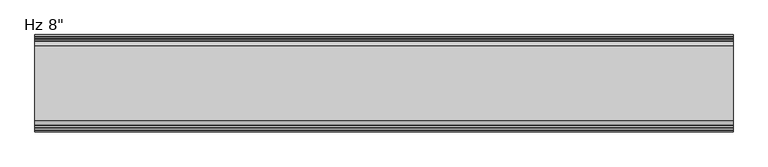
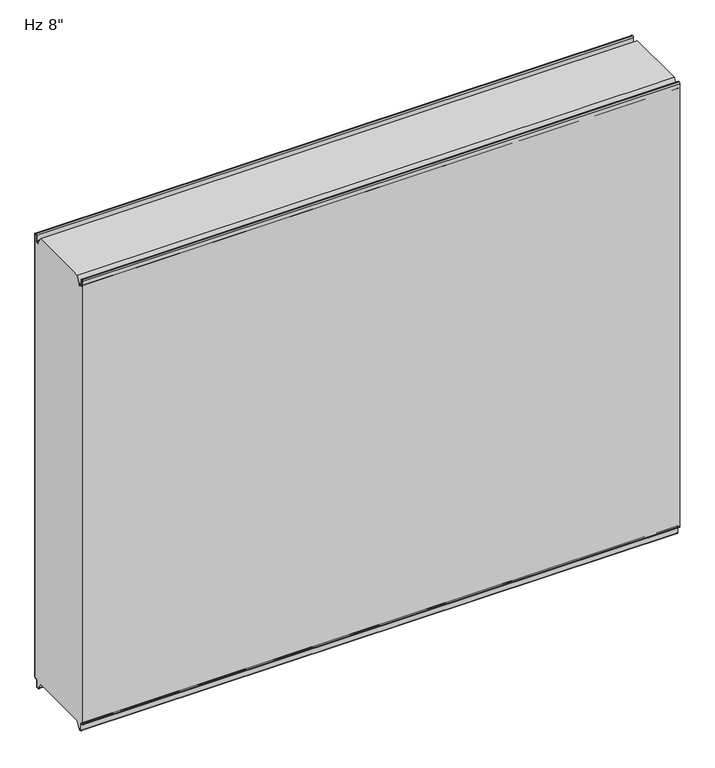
"""IFC4 building model written with IfcOpenShell, lengths in millimetres: plate geometry."""

from ifc_helpers import new_model, si_unit, frame, origin, place, context, project, spatial, polyline, circle_curve, source, transform, mapped, element, save
from ifc_brep_helpers import plane_surface, cylinder_surface, revolved_surface, advanced_brep


def plate_5a65601d(model_context):
    return source(origin(), model_context, "Body", "AdvancedBrep", [
        advanced_brep(
        [(-730.0, -200.2227194, 3.8499499), (-730.0, -202.1999935, 5.8272239), (-730.0, -202.2, 1150.8100652), (-730.0, -200.2227315, 1152.7873337), (-730.0, -199.1806329, 1152.7873337), (-730.0, -197.2033643, 1150.8100652), (-730.0, -197.2033643, 1136.6216802), (-730.0, -194.6154878, 1134.0338036), (-730.0, -190.2950697, 1134.0338036), (-730.0, -189.7060762, 1133.4253365), (-730.0, -189.7060762, 1131.0482432), (-730.0, -188.7066023, 1131.0482432), (-730.0, -188.7066023, 1136.4905123), (-730.0, -179.4490865, 1152.525), (-730.0, -23.7509179, 1152.525), (-730.0, -14.4933977, 1136.4905123), (-730.0, -14.4933977, 1131.0482432), (-730.0, -13.4939238, 1131.0482432), (-730.0, -13.4939238, 1133.4253365), (-730.0, -12.9049303, 1134.0338036), (-730.0, -8.5845122, 1134.0338036), (-730.0, -5.9966357, 1136.6216802), (-730.0, -5.9966357, 1150.8100652), (-730.0, -4.0193671, 1152.7873337), (-730.0, -2.9772685, 1152.7873337), (-730.0, -1.0, 1150.8100652), (-730.0, -1.0, 5.8272239), (-730.0, -2.9772806, 3.8499499), (-730.0, -5.2691705, 3.8499499), (-730.0, -9.2464377, -0.1273173), (-730.0, -9.2464377, -15.7237417), (-730.0, -9.8343146, -16.3116186), (-730.0, -12.9058635, -16.3116186), (-730.0, -13.4937402, -15.723742), (-730.0, -13.4937402, -13.3687064), (-730.0, -14.4937402, -13.3687064), (-730.0, -14.4937402, -15.6582851), (-730.0, -23.7509135, 0.0), (-730.0, -179.4490865, 0.0), (-730.0, -188.7062598, -15.6582851), (-730.0, -188.7062598, -13.3687064), (-730.0, -189.7062598, -13.3687064), (-730.0, -189.7062598, -15.723742), (-730.0, -190.2941365, -16.3116186), (-730.0, -193.3656854, -16.3116186), (-730.0, -193.9535623, -15.7237417), (-730.0, -193.9535623, -0.1273173), (-730.0, -197.9308295, 3.8499499), (730.0, -200.2227194, 3.8499499), (730.0, -197.9308295, 3.8499499), (730.0, -193.9535623, -0.1273173), (730.0, -193.9535623, -15.7237417), (730.0, -193.3656854, -16.3116186), (730.0, -190.2941365, -16.3116186), (730.0, -189.7062598, -15.723742), (730.0, -189.7062598, -13.3687064), (730.0, -188.7062598, -13.3687064), (730.0, -188.7062598, -15.6582851), (730.0, -179.4490865, 0.0), (730.0, -23.7509179, 0.0), (730.0, -14.4937402, -15.6582851), (730.0, -14.4937402, -13.3687064), (730.0, -13.4937402, -13.3687064), (730.0, -13.4937402, -15.723742), (730.0, -12.9058635, -16.3116186), (730.0, -9.8343146, -16.3116186), (730.0, -9.2464377, -15.7237417), (730.0, -9.2464377, -0.1273173), (730.0, -5.2691705, 3.8499499), (730.0, -2.9772806, 3.8499499), (730.0, -1.0000065, 5.8272239), (730.0, -1.0, 1150.8100652), (730.0, -2.9772685, 1152.7873337), (730.0, -4.0193671, 1152.7873337), (730.0, -5.9966357, 1150.8100652), (730.0, -5.9966357, 1136.6216802), (730.0, -8.5845122, 1134.0338036), (730.0, -12.9049303, 1134.0338036), (730.0, -13.4939238, 1133.4253365), (730.0, -13.4939238, 1131.0482432), (730.0, -14.4933977, 1131.0482432), (730.0, -14.4933977, 1136.4905123), (730.0, -23.7509135, 1152.525), (730.0, -179.4490865, 1152.525), (730.0, -188.7066023, 1136.4905123), (730.0, -188.7066023, 1131.0482432), (730.0, -189.7060762, 1131.0482432), (730.0, -189.7060762, 1133.4253365), (730.0, -190.2950697, 1134.0338036), (730.0, -194.6154878, 1134.0338036), (730.0, -197.2033643, 1136.6216802), (730.0, -197.2033643, 1150.8100652), (730.0, -199.1806329, 1152.7873337), (730.0, -200.2227315, 1152.7873337), (730.0, -202.2, 1150.8100652), (730.0, -202.2, 5.8272239)],
        [
            (0, 1, circle_curve(frame((-730.0, -200.2227194, 5.8272239), z_axis=(-1.0, 0.0, 0.0), x_axis=(0.0, 0.0, -1.0)), 1.977274)),
            (1, 2),
            (2, 3, circle_curve(frame((-730.0, -200.2227315, 1150.8100652), z_axis=(-1.0, 0.0, 0.0), x_axis=(0.0, 0.0, -1.0)), 1.9772685)),
            (3, 4),
            (4, 5, circle_curve(frame((-730.0, -199.1806329, 1150.8100652), z_axis=(-1.0, 0.0, 0.0), x_axis=(0.0, 0.0, -1.0)), 1.9772685)),
            (5, 6),
            (6, 7, circle_curve(frame((-730.0, -194.6154878, 1136.6216802), z_axis=(1.0, 0.0, 0.0), x_axis=(0.0, 0.0, -1.0)), 2.5878765)),
            (7, 8),
            (8, 9, circle_curve(frame((-730.0, -190.2950697, 1133.4444985), z_axis=(-1.0, 0.0, 0.0), x_axis=(0.0, 0.0, -1.0)), 0.5893051)),
            (9, 10),
            (10, 11),
            (11, 12),
            (12, 13),
            (13, 14),
            (14, 15),
            (15, 16),
            (16, 17),
            (17, 18),
            (18, 19, circle_curve(frame((-730.0, -12.9049303, 1133.4444985), z_axis=(-1.0, 0.0, 0.0), x_axis=(0.0, 1.0, 0.0)), 0.5893051)),
            (19, 20),
            (20, 21, circle_curve(frame((-730.0, -8.5845122, 1136.6216802), z_axis=(1.0, 0.0, 0.0), x_axis=(0.0, 1.0, 0.0)), 2.5878765)),
            (21, 22),
            (22, 23, circle_curve(frame((-730.0, -4.0193671, 1150.8100652), z_axis=(-1.0, 0.0, 0.0), x_axis=(0.0, 1.0, 0.0)), 1.9772685)),
            (23, 24),
            (24, 25, circle_curve(frame((-730.0, -2.9772685, 1150.8100652), z_axis=(-1.0, 0.0, 0.0), x_axis=(0.0, 1.0, 0.0)), 1.9772685)),
            (25, 26),
            (26, 27, circle_curve(frame((-730.0, -2.9772806, 5.8272239), z_axis=(-1.0, 0.0, 0.0), x_axis=(0.0, 1.0, 0.0)), 1.977274)),
            (27, 28),
            (28, 29, circle_curve(frame((-730.0, -5.2691705, -0.1273173), z_axis=(1.0, 0.0, 0.0), x_axis=(0.0, 1.0, 0.0)), 3.9772671)),
            (29, 30),
            (30, 31, circle_curve(frame((-730.0, -9.8343146, -15.7237417), z_axis=(-1.0, 0.0, 0.0), x_axis=(0.0, 1.0, 0.0)), 0.5878769)),
            (31, 32),
            (32, 33, circle_curve(frame((-730.0, -12.9058635, -15.723742), z_axis=(-1.0, 0.0, 0.0), x_axis=(0.0, 1.0, 0.0)), 0.5878766)),
            (33, 34),
            (34, 35),
            (35, 36),
            (36, 37),
            (37, 38),
            (38, 39),
            (39, 40),
            (40, 41),
            (41, 42),
            (42, 43, circle_curve(frame((-730.0, -190.2941365, -15.723742), z_axis=(-1.0, 0.0, 0.0), x_axis=(0.0, 0.0, -1.0)), 0.5878766)),
            (43, 44),
            (44, 45, circle_curve(frame((-730.0, -193.3656854, -15.7237417), z_axis=(-1.0, 0.0, 0.0), x_axis=(0.0, 0.0, -1.0)), 0.5878769)),
            (45, 46),
            (46, 47, circle_curve(frame((-730.0, -197.9308295, -0.1273173), z_axis=(1.0, 0.0, 0.0), x_axis=(0.0, 0.0, -1.0)), 3.9772671)),
            (47, 0),
            (48, 49),
            (49, 50, circle_curve(frame((730.0, -197.9308295, -0.1273173), z_axis=(-1.0, 0.0, 0.0), x_axis=(0.0, 0.0, -1.0)), 3.9772671)),
            (50, 51),
            (51, 52, circle_curve(frame((730.0, -193.3656854, -15.7237417), z_axis=(1.0, 0.0, 0.0), x_axis=(0.0, 0.0, -1.0)), 0.5878769)),
            (52, 53),
            (53, 54, circle_curve(frame((730.0, -190.2941365, -15.723742), z_axis=(1.0, 0.0, 0.0), x_axis=(0.0, 0.0, -1.0)), 0.5878766)),
            (54, 55),
            (55, 56),
            (56, 57),
            (57, 58),
            (58, 59),
            (59, 60),
            (60, 61),
            (61, 62),
            (62, 63),
            (63, 64, circle_curve(frame((730.0, -12.9058635, -15.723742), z_axis=(1.0, 0.0, 0.0), x_axis=(0.0, 1.0, 0.0)), 0.5878766)),
            (64, 65),
            (65, 66, circle_curve(frame((730.0, -9.8343146, -15.7237417), z_axis=(1.0, 0.0, 0.0), x_axis=(0.0, 1.0, 0.0)), 0.5878769)),
            (66, 67),
            (67, 68, circle_curve(frame((730.0, -5.2691705, -0.1273173), z_axis=(-1.0, 0.0, 0.0), x_axis=(0.0, 1.0, 0.0)), 3.9772671)),
            (68, 69),
            (69, 70, circle_curve(frame((730.0, -2.9772806, 5.8272239), z_axis=(1.0, 0.0, 0.0), x_axis=(0.0, 1.0, 0.0)), 1.977274)),
            (70, 71),
            (71, 72, circle_curve(frame((730.0, -2.9772685, 1150.8100652), z_axis=(1.0, 0.0, 0.0), x_axis=(0.0, 1.0, 0.0)), 1.9772685)),
            (72, 73),
            (73, 74, circle_curve(frame((730.0, -4.0193671, 1150.8100652), z_axis=(1.0, 0.0, 0.0), x_axis=(0.0, 1.0, 0.0)), 1.9772685)),
            (74, 75),
            (75, 76, circle_curve(frame((730.0, -8.5845122, 1136.6216802), z_axis=(-1.0, 0.0, 0.0), x_axis=(0.0, 1.0, 0.0)), 2.5878765)),
            (76, 77),
            (77, 78, circle_curve(frame((730.0, -12.9049303, 1133.4444985), z_axis=(1.0, 0.0, 0.0), x_axis=(0.0, 1.0, 0.0)), 0.5893051)),
            (78, 79),
            (79, 80),
            (80, 81),
            (81, 82),
            (82, 83),
            (83, 84),
            (84, 85),
            (85, 86),
            (86, 87),
            (87, 88, circle_curve(frame((730.0, -190.2950697, 1133.4444985), z_axis=(1.0, 0.0, 0.0), x_axis=(0.0, 0.0, -1.0)), 0.5893051)),
            (88, 89),
            (89, 90, circle_curve(frame((730.0, -194.6154878, 1136.6216802), z_axis=(-1.0, 0.0, 0.0), x_axis=(0.0, 0.0, -1.0)), 2.5878765)),
            (90, 91),
            (91, 92, circle_curve(frame((730.0, -199.1806329, 1150.8100652), z_axis=(1.0, 0.0, 0.0), x_axis=(0.0, 0.0, -1.0)), 1.9772685)),
            (92, 93),
            (93, 94, circle_curve(frame((730.0, -200.2227315, 1150.8100652), z_axis=(1.0, 0.0, 0.0), x_axis=(0.0, 0.0, -1.0)), 1.9772685)),
            (94, 95),
            (95, 48, circle_curve(frame((730.0, -200.2227194, 5.8272239), z_axis=(1.0, 0.0, 0.0), x_axis=(0.0, 0.0, -1.0)), 1.977274)),
            (13, 83),
            (82, 14),
            (58, 38),
            (37, 59),
            (47, 49),
            (48, 0),
            (46, 50),
            (45, 51),
            (44, 52),
            (43, 53),
            (42, 54),
            (41, 55),
            (40, 56),
            (39, 57),
            (12, 84),
            (11, 85),
            (10, 86),
            (9, 87),
            (8, 88),
            (7, 89),
            (6, 90),
            (5, 91),
            (4, 92),
            (3, 93),
            (2, 94),
            (1, 95),
            (26, 70),
            (69, 27),
            (25, 71),
            (24, 72),
            (23, 73),
            (22, 74),
            (21, 75),
            (20, 76),
            (19, 77),
            (18, 78),
            (17, 79),
            (16, 80),
            (15, 81),
            (36, 60),
            (35, 61),
            (34, 62),
            (33, 63),
            (32, 64),
            (31, 65),
            (30, 66),
            (29, 67),
            (28, 68),
        ],
        [
            plane_surface(frame((-730.0, -202.2, 576.2625), z_axis=(-1.0, 0.0, 0.0), x_axis=(0.0, -1.0, 0.0))),
            plane_surface(frame((730.0, -202.2, 576.2625), z_axis=(1.0, 0.0, 0.0), x_axis=(0.0, -1.0, 0.0))),
            plane_surface(frame((-730.0, -179.4490865, 1152.525), z_axis=(0.0, 0.0, 1.0), x_axis=(-1.0, 0.0, 0.0))),
            plane_surface(frame((-730.0, -179.4490865, 0.0), z_axis=(0.0, 0.0, -1.0), x_axis=(1.0, 0.0, 0.0))),
            plane_surface(frame((-730.0, -200.2227194, 3.8499499), z_axis=(0.0, 0.0, -1.0), x_axis=(1.0, 0.0, 0.0))),
            revolved_surface(polyline([(730.0, -197.9308295, -4.1045844), (-730.0, -197.9308295, -4.1045844)]), (-730.0, -197.9308295, -0.1273173), (1.0, 0.0, 0.0)),
            plane_surface(frame((-730.0, -193.9535623, -0.1273173), z_axis=(0.0, -1.0, 0.0), x_axis=(1.0, 0.0, 0.0))),
            cylinder_surface(frame((-730.0, -193.3656854, -15.7237417), z_axis=(-1.0, 0.0, 0.0), x_axis=(0.0, 0.0, -1.0)), 0.5878769),
            plane_surface(frame((-730.0, -193.3656854, -16.3116186), z_axis=(0.0, 0.0, -1.0), x_axis=(1.0, 0.0, 0.0))),
            cylinder_surface(frame((-730.0, -190.2941365, -15.723742), z_axis=(-1.0, 0.0, 0.0), x_axis=(0.0, 0.0, -1.0)), 0.5878766),
            plane_surface(frame((-730.0, -189.7062598, -15.723742), z_axis=(0.0, 1.0, 0.0), x_axis=(1.0, 0.0, 0.0))),
            plane_surface(frame((-730.0, -189.7062598, -13.3687064), z_axis=(0.0, 0.0, -1.0), x_axis=(1.0, 0.0, 0.0))),
            plane_surface(frame((-730.0, -188.7062598, -13.3687064), z_axis=(0.0, -1.0, 0.0), x_axis=(1.0, 0.0, 0.0))),
            plane_surface(frame((-730.0, -188.7062598, -15.6582851), z_axis=(0.0, 0.8608169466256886, -0.5089147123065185), x_axis=(1.0, 0.0, 0.0))),
            plane_surface(frame((-730.0, -179.4490865, 1152.525), z_axis=(0.0, -0.8660254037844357, 0.5000000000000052), x_axis=(1.0, 0.0, 0.0))),
            plane_surface(frame((-730.0, -188.7066023, 1136.4905123), z_axis=(0.0, -1.0, 0.0), x_axis=(1.0, 0.0, 0.0))),
            plane_surface(frame((-730.0, -188.7066023, 1131.0482432), z_axis=(0.0, 0.0, 1.0), x_axis=(1.0, 0.0, 0.0))),
            plane_surface(frame((-730.0, -189.7060762, 1131.0482432), z_axis=(0.0, 1.0, 0.0), x_axis=(1.0, 0.0, 0.0))),
            cylinder_surface(frame((-730.0, -190.2950697, 1133.4444985), z_axis=(-1.0, 0.0, 0.0), x_axis=(0.0, 0.0, -1.0)), 0.5893051),
            plane_surface(frame((-730.0, -190.2950697, 1134.0338036), z_axis=(0.0, 0.0, 1.0), x_axis=(1.0, 0.0, 0.0))),
            revolved_surface(polyline([(730.0, -194.6154878, 1134.0338037), (-730.0, -194.6154878, 1134.0338037)]), (-730.0, -194.6154878, 1136.6216802), (1.0, 0.0, 0.0)),
            plane_surface(frame((-730.0, -197.2033643, 1136.6216802), z_axis=(0.0, 1.0, 0.0), x_axis=(1.0, 0.0, 0.0))),
            cylinder_surface(frame((-730.0, -199.1806329, 1150.8100652), z_axis=(-1.0, 0.0, 0.0), x_axis=(0.0, 0.0, -1.0)), 1.9772685),
            plane_surface(frame((-730.0, -199.1806329, 1152.7873337), z_axis=(0.0, 0.0, 1.0), x_axis=(1.0, 0.0, 0.0))),
            cylinder_surface(frame((-730.0, -200.2227315, 1150.8100652), z_axis=(-1.0, 0.0, 0.0), x_axis=(0.0, 0.0, -1.0)), 1.9772685),
            plane_surface(frame((-730.0, -202.2, 1150.8100652), z_axis=(0.0, -1.0, 0.0), x_axis=(1.0, 0.0, 0.0))),
            cylinder_surface(frame((-730.0, -200.2227194, 5.8272239), z_axis=(-1.0, 0.0, 0.0), x_axis=(0.0, 0.0, -1.0)), 1.977274),
            cylinder_surface(frame((-730.0, -2.9772806, 5.8272239), z_axis=(-1.0, 0.0, 0.0), x_axis=(0.0, 1.0, 0.0)), 1.977274),
            plane_surface(frame((-730.0, -1.0, 5.8272239), z_axis=(0.0, 1.0, 0.0), x_axis=(1.0, 0.0, 0.0))),
            cylinder_surface(frame((-730.0, -2.9772685, 1150.8100652), z_axis=(-1.0, 0.0, 0.0), x_axis=(0.0, 1.0, 0.0)), 1.9772685),
            plane_surface(frame((-730.0, -2.9772685, 1152.7873337), z_axis=(0.0, 0.0, 1.0), x_axis=(1.0, 0.0, 0.0))),
            cylinder_surface(frame((-730.0, -4.0193671, 1150.8100652), z_axis=(-1.0, 0.0, 0.0), x_axis=(0.0, 1.0, 0.0)), 1.9772685),
            plane_surface(frame((-730.0, -5.9966357, 1150.8100652), z_axis=(0.0, -1.0, 0.0), x_axis=(1.0, 0.0, 0.0))),
            revolved_surface(polyline([(730.0, -5.996635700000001, 1136.6216802), (-730.0, -5.996635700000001, 1136.6216802)]), (-730.0, -8.5845122, 1136.6216802), (1.0, 0.0, 0.0)),
            plane_surface(frame((-730.0, -8.5845122, 1134.0338036), z_axis=(0.0, 0.0, 1.0), x_axis=(1.0, 0.0, 0.0))),
            cylinder_surface(frame((-730.0, -12.9049303, 1133.4444985), z_axis=(-1.0, 0.0, 0.0), x_axis=(0.0, 1.0, 0.0)), 0.5893051),
            plane_surface(frame((-730.0, -13.4939238, 1133.4253365), z_axis=(0.0, -1.0, 0.0), x_axis=(1.0, 0.0, 0.0))),
            plane_surface(frame((-730.0, -13.4939238, 1131.0482432), z_axis=(0.0, 0.0, 1.0), x_axis=(1.0, 0.0, 0.0))),
            plane_surface(frame((-730.0, -14.4933977, 1131.0482432), z_axis=(0.0, 1.0, 0.0), x_axis=(1.0, 0.0, 0.0))),
            plane_surface(frame((-730.0, -14.4933977, 1136.4905123), z_axis=(0.0, 0.8660254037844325, 0.5000000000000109), x_axis=(1.0, 0.0, 0.0))),
            plane_surface(frame((-730.0, -23.7509135, 0.0), z_axis=(0.0, -0.8608169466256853, -0.5089147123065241), x_axis=(1.0, 0.0, 0.0))),
            plane_surface(frame((-730.0, -14.4937402, -15.6582851), z_axis=(0.0, 1.0, 0.0), x_axis=(1.0, 0.0, 0.0))),
            plane_surface(frame((-730.0, -14.4937402, -13.3687064), z_axis=(0.0, 0.0, -1.0), x_axis=(1.0, 0.0, 0.0))),
            plane_surface(frame((-730.0, -13.4937402, -13.3687064), z_axis=(0.0, -1.0, 0.0), x_axis=(1.0, 0.0, 0.0))),
            cylinder_surface(frame((-730.0, -12.9058635, -15.723742), z_axis=(-1.0, 0.0, 0.0), x_axis=(0.0, 1.0, 0.0)), 0.5878766),
            plane_surface(frame((-730.0, -12.9058635, -16.3116186), z_axis=(0.0, 0.0, -1.0), x_axis=(1.0, 0.0, 0.0))),
            cylinder_surface(frame((-730.0, -9.8343146, -15.7237417), z_axis=(-1.0, 0.0, 0.0), x_axis=(0.0, 1.0, 0.0)), 0.5878769),
            plane_surface(frame((-730.0, -9.2464377, -15.7237417), z_axis=(0.0, 1.0, 0.0), x_axis=(1.0, 0.0, 0.0))),
            revolved_surface(polyline([(730.0, -1.2919034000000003, -0.1273173), (-730.0, -1.2919034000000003, -0.1273173)]), (-730.0, -5.2691705, -0.1273173), (1.0, 0.0, 0.0)),
            plane_surface(frame((-730.0, -5.2691705, 3.8499499), z_axis=(0.0, 0.0, -1.0), x_axis=(1.0, 0.0, 0.0))),
        ],
        [
            (0, [[1, 2, 3, 4, 5, 6, 7, 8, 9, 10, 11, 12, 13, 14, 15, 16, 17, 18, 19, 20, 21, 22, 23, 24, 25, 26, 27, 28, 29, 30, 31, 32, 33, 34, 35, 36, 37, 38, 39, 40, 41, 42, 43, 44, 45, 46, 47, 48]]),
            (1, [[49, 50, 51, 52, 53, 54, 55, 56, 57, 58, 59, 60, 61, 62, 63, 64, 65, 66, 67, 68, 69, 70, 71, 72, 73, 74, 75, 76, 77, 78, 79, 80, 81, 82, 83, 84, 85, 86, 87, 88, 89, 90, 91, 92, 93, 94, 95, 96]]),
            (2, [[97, -83, 98, -14]]),
            (3, [[99, -38, 100, -59]]),
            (4, [[101, -49, 102, -48]]),
            (5, [[103, -50, -101, -47]]),
            (6, [[104, -51, -103, -46]]),
            (7, [[105, -52, -104, -45]]),
            (8, [[106, -53, -105, -44]]),
            (9, [[107, -54, -106, -43]]),
            (10, [[108, -55, -107, -42]]),
            (11, [[109, -56, -108, -41]]),
            (12, [[110, -57, -109, -40]]),
            (13, [[-99, -58, -110, -39]]),
            (14, [[111, -84, -97, -13]]),
            (15, [[112, -85, -111, -12]]),
            (16, [[113, -86, -112, -11]]),
            (17, [[114, -87, -113, -10]]),
            (18, [[115, -88, -114, -9]]),
            (19, [[116, -89, -115, -8]]),
            (20, [[117, -90, -116, -7]]),
            (21, [[118, -91, -117, -6]]),
            (22, [[119, -92, -118, -5]]),
            (23, [[120, -93, -119, -4]]),
            (24, [[121, -94, -120, -3]]),
            (25, [[122, -95, -121, -2]]),
            (26, [[-102, -96, -122, -1]]),
            (27, [[123, -70, 124, -27]]),
            (28, [[125, -71, -123, -26]]),
            (29, [[126, -72, -125, -25]]),
            (30, [[127, -73, -126, -24]]),
            (31, [[128, -74, -127, -23]]),
            (32, [[129, -75, -128, -22]]),
            (33, [[130, -76, -129, -21]]),
            (34, [[131, -77, -130, -20]]),
            (35, [[132, -78, -131, -19]]),
            (36, [[133, -79, -132, -18]]),
            (37, [[134, -80, -133, -17]]),
            (38, [[135, -81, -134, -16]]),
            (39, [[-98, -82, -135, -15]]),
            (40, [[136, -60, -100, -37]]),
            (41, [[137, -61, -136, -36]]),
            (42, [[138, -62, -137, -35]]),
            (43, [[139, -63, -138, -34]]),
            (44, [[140, -64, -139, -33]]),
            (45, [[141, -65, -140, -32]]),
            (46, [[142, -66, -141, -31]]),
            (47, [[143, -67, -142, -30]]),
            (48, [[144, -68, -143, -29]]),
            (49, [[-124, -69, -144, -28]]),
        ],
    ),
        advanced_brep(
        [(-730.0, -2.9776189, 3.8501063), (-730.0, -1.0007088, 5.8270163), (-730.0, -1.0007088, 1150.812837), (-730.0, -2.97659, 1152.7887182), (-730.0, -4.019022, 1152.7887182), (-730.0, -5.9969834, 1150.8107568), (-730.0, -5.9969834, 1136.6215971), (-730.0, -8.5846834, 1134.0338971), (-730.0, -12.9049158, 1134.0338971), (-730.0, -13.4939528, 1133.4253599), (-730.0, -13.4939528, 1131.0482432), (-730.0, -14.4933977, 1131.0482432), (-730.0, -14.4933977, 1133.3929042), (-730.0, -12.9049303, 1135.0338036), (-730.0, -8.5845122, 1135.0338036), (-730.0, -6.9966356, 1136.6216801), (-730.0, -6.9966356, 1150.8100652), (-730.0, -4.0193671, 1153.7873337), (-730.0, -2.9772685, 1153.7873337), (-730.0, 0.0, 1150.8100652), (-730.0, 0.0, 5.8272211), (-730.0, -2.977286, 2.8499526), (-730.0, -5.2691698, 2.8499526), (-730.0, -8.2464384, -0.1273159), (-730.0, -8.2464384, -15.7237419), (-730.0, -9.8343149, -17.3116185), (-730.0, -12.9058636, -17.3116185), (-730.0, -14.4937401, -15.7237419), (-730.0, -14.4937401, -13.3687064), (-730.0, -13.4937365, -13.3687064), (-730.0, -13.4937365, -15.7237374), (-730.0, -12.9058654, -16.3116086), (-730.0, -9.834334, -16.3116086), (-730.0, -9.2464768, -15.7237514), (-730.0, -9.2464768, -0.1272391), (-730.0, -5.2691315, 3.8501063), (730.0, -2.9776189, 3.8501063), (730.0, -5.2691315, 3.8501063), (730.0, -9.2464768, -0.1272391), (730.0, -9.2464768, -15.7237514), (730.0, -9.834334, -16.3116086), (730.0, -12.9058654, -16.3116086), (730.0, -13.4937365, -15.7237374), (730.0, -13.4937365, -13.3687064), (730.0, -14.4937401, -13.3687064), (730.0, -14.4937401, -15.7237419), (730.0, -12.9058636, -17.3116185), (730.0, -9.8343149, -17.3116185), (730.0, -8.2464384, -15.7237419), (730.0, -8.2464384, -0.1273159), (730.0, -5.2691698, 2.8499526), (730.0, -2.977286, 2.8499526), (730.0, -1.75e-05, 5.8272211), (730.0, 0.0, 1150.8100652), (730.0, -2.9772685, 1153.7873337), (730.0, -4.0193671, 1153.7873337), (730.0, -6.9966356, 1150.8100652), (730.0, -6.9966356, 1136.6216801), (730.0, -8.5845122, 1135.0338036), (730.0, -12.9049303, 1135.0338036), (730.0, -14.4933977, 1133.3929042), (730.0, -14.4933977, 1131.0482432), (730.0, -13.4939528, 1131.0482432), (730.0, -13.4939528, 1133.4253599), (730.0, -12.9049158, 1134.0338971), (730.0, -8.5846834, 1134.0338971), (730.0, -5.9969834, 1136.6215971), (730.0, -5.9969834, 1150.8107568), (730.0, -4.019022, 1152.7887182), (730.0, -2.97659, 1152.7887182), (730.0, -1.0007088, 1150.812837), (730.0, -1.0007088, 5.8270163)],
        [
            (0, 1, circle_curve(frame((-730.0, -2.9776189, 5.8270163), z_axis=(1.0, 0.0, 0.0), x_axis=(0.0, 1.0, 0.0)), 1.9769101)),
            (1, 2),
            (2, 3, circle_curve(frame((-730.0, -2.97659, 1150.812837), z_axis=(1.0, 0.0, 0.0), x_axis=(0.0, 1.0, 0.0)), 1.9758812)),
            (3, 4),
            (4, 5, circle_curve(frame((-730.0, -4.019022, 1150.8107568), z_axis=(1.0, 0.0, 0.0), x_axis=(0.0, 1.0, 0.0)), 1.9779614)),
            (5, 6),
            (6, 7, circle_curve(frame((-730.0, -8.5846834, 1136.6215971), z_axis=(-1.0, 0.0, 0.0), x_axis=(0.0, 1.0, 0.0)), 2.5877)),
            (7, 8),
            (8, 9, circle_curve(frame((-730.0, -12.9049158, 1133.4445477), z_axis=(1.0, 0.0, 0.0), x_axis=(0.0, 1.0, 0.0)), 0.5893495)),
            (9, 10),
            (10, 11),
            (11, 12),
            (12, 13, circle_curve(frame((-730.0, -12.9049303, 1133.4444985), z_axis=(-1.0, 0.0, 0.0), x_axis=(0.0, 1.0, 0.0)), 1.5893051)),
            (13, 14),
            (14, 15, circle_curve(frame((-730.0, -8.5845122, 1136.6216801), z_axis=(1.0, 0.0, 0.0), x_axis=(0.0, 1.0, 0.0)), 1.5878765)),
            (15, 16),
            (16, 17, circle_curve(frame((-730.0, -4.0193671, 1150.8100652), z_axis=(-1.0, 0.0, 0.0), x_axis=(0.0, 1.0, 0.0)), 2.9772685)),
            (17, 18),
            (18, 19, circle_curve(frame((-730.0, -2.9772685, 1150.8100652), z_axis=(-1.0, 0.0, 0.0), x_axis=(0.0, 1.0, 0.0)), 2.9772685)),
            (19, 20),
            (20, 21, circle_curve(frame((-730.0, -2.977286, 5.8272211), z_axis=(-1.0, 0.0, 0.0), x_axis=(0.0, 1.0, 0.0)), 2.9772685)),
            (21, 22),
            (22, 23, circle_curve(frame((-730.0, -5.2691698, -0.1273159), z_axis=(1.0, 0.0, 0.0), x_axis=(0.0, 1.0, 0.0)), 2.9772685)),
            (23, 24),
            (24, 25, circle_curve(frame((-730.0, -9.8343149, -15.7237419), z_axis=(-1.0, 0.0, 0.0), x_axis=(0.0, 1.0, 0.0)), 1.5878765)),
            (25, 26),
            (26, 27, circle_curve(frame((-730.0, -12.9058636, -15.7237419), z_axis=(-1.0, 0.0, 0.0), x_axis=(0.0, 1.0, 0.0)), 1.5878765)),
            (27, 28),
            (28, 29),
            (29, 30),
            (30, 31, circle_curve(frame((-730.0, -12.9058654, -15.7237374), z_axis=(1.0, 0.0, 0.0), x_axis=(0.0, 1.0, 0.0)), 0.5878711)),
            (31, 32),
            (32, 33, circle_curve(frame((-730.0, -9.834334, -15.7237514), z_axis=(1.0, 0.0, 0.0), x_axis=(0.0, 1.0, 0.0)), 0.5878572)),
            (33, 34),
            (34, 35, circle_curve(frame((-730.0, -5.2691315, -0.1272391), z_axis=(-1.0, 0.0, 0.0), x_axis=(0.0, 1.0, 0.0)), 3.9773454)),
            (35, 0),
            (36, 37),
            (37, 38, circle_curve(frame((730.0, -5.2691315, -0.1272391), z_axis=(1.0, 0.0, 0.0), x_axis=(0.0, 1.0, 0.0)), 3.9773454)),
            (38, 39),
            (39, 40, circle_curve(frame((730.0, -9.834334, -15.7237514), z_axis=(-1.0, 0.0, 0.0), x_axis=(0.0, 1.0, 0.0)), 0.5878572)),
            (40, 41),
            (41, 42, circle_curve(frame((730.0, -12.9058654, -15.7237374), z_axis=(-1.0, 0.0, 0.0), x_axis=(0.0, 1.0, 0.0)), 0.5878711)),
            (42, 43),
            (43, 44),
            (44, 45),
            (45, 46, circle_curve(frame((730.0, -12.9058636, -15.7237419), z_axis=(1.0, 0.0, 0.0), x_axis=(0.0, 1.0, 0.0)), 1.5878765)),
            (46, 47),
            (47, 48, circle_curve(frame((730.0, -9.8343149, -15.7237419), z_axis=(1.0, 0.0, 0.0), x_axis=(0.0, 1.0, 0.0)), 1.5878765)),
            (48, 49),
            (49, 50, circle_curve(frame((730.0, -5.2691698, -0.1273159), z_axis=(-1.0, 0.0, 0.0), x_axis=(0.0, 1.0, 0.0)), 2.9772685)),
            (50, 51),
            (51, 52, circle_curve(frame((730.0, -2.977286, 5.8272211), z_axis=(1.0, 0.0, 0.0), x_axis=(0.0, 1.0, 0.0)), 2.9772685)),
            (52, 53),
            (53, 54, circle_curve(frame((730.0, -2.9772685, 1150.8100652), z_axis=(1.0, 0.0, 0.0), x_axis=(0.0, 1.0, 0.0)), 2.9772685)),
            (54, 55),
            (55, 56, circle_curve(frame((730.0, -4.0193671, 1150.8100652), z_axis=(1.0, 0.0, 0.0), x_axis=(0.0, 1.0, 0.0)), 2.9772685)),
            (56, 57),
            (57, 58, circle_curve(frame((730.0, -8.5845122, 1136.6216801), z_axis=(-1.0, 0.0, 0.0), x_axis=(0.0, 1.0, 0.0)), 1.5878765)),
            (58, 59),
            (59, 60, circle_curve(frame((730.0, -12.9049303, 1133.4444985), z_axis=(1.0, 0.0, 0.0), x_axis=(0.0, 1.0, 0.0)), 1.5893051)),
            (60, 61),
            (61, 62),
            (62, 63),
            (63, 64, circle_curve(frame((730.0, -12.9049158, 1133.4445477), z_axis=(-1.0, 0.0, 0.0), x_axis=(0.0, 1.0, 0.0)), 0.5893495)),
            (64, 65),
            (65, 66, circle_curve(frame((730.0, -8.5846834, 1136.6215971), z_axis=(1.0, 0.0, 0.0), x_axis=(0.0, 1.0, 0.0)), 2.5877)),
            (66, 67),
            (67, 68, circle_curve(frame((730.0, -4.019022, 1150.8107568), z_axis=(-1.0, 0.0, 0.0), x_axis=(0.0, 1.0, 0.0)), 1.9779614)),
            (68, 69),
            (69, 70, circle_curve(frame((730.0, -2.97659, 1150.812837), z_axis=(-1.0, 0.0, 0.0), x_axis=(0.0, 1.0, 0.0)), 1.9758812)),
            (70, 71),
            (71, 36, circle_curve(frame((730.0, -2.9776189, 5.8270163), z_axis=(-1.0, 0.0, 0.0), x_axis=(0.0, 1.0, 0.0)), 1.9769101)),
            (35, 37),
            (36, 0),
            (34, 38),
            (33, 39),
            (32, 40),
            (31, 41),
            (30, 42),
            (29, 43),
            (28, 44),
            (27, 45),
            (26, 46),
            (25, 47),
            (24, 48),
            (23, 49),
            (22, 50),
            (21, 51),
            (20, 52),
            (19, 53),
            (18, 54),
            (17, 55),
            (16, 56),
            (15, 57),
            (14, 58),
            (13, 59),
            (12, 60),
            (11, 61),
            (10, 62),
            (9, 63),
            (8, 64),
            (7, 65),
            (6, 66),
            (5, 67),
            (4, 68),
            (3, 69),
            (2, 70),
            (1, 71),
        ],
        [
            plane_surface(frame((-730.0, 0.0, 576.2625), z_axis=(-1.0, 0.0, 0.0), x_axis=(0.0, 1.0, 0.0))),
            plane_surface(frame((730.0, 0.0, 576.2625), z_axis=(1.0, 0.0, 0.0), x_axis=(0.0, 1.0, 0.0))),
            plane_surface(frame((-730.0, -2.9776189, 3.8501063), z_axis=(0.0, 0.0, 1.0), x_axis=(1.0, 0.0, 0.0))),
            cylinder_surface(frame((-730.0, -5.2691315, -0.1272391), z_axis=(-1.0, 0.0, 0.0), x_axis=(0.0, 1.0, 0.0)), 3.9773454),
            plane_surface(frame((-730.0, -9.2464768, -0.1272391), z_axis=(0.0, -1.0, 0.0), x_axis=(1.0, 0.0, 0.0))),
            revolved_surface(polyline([(730.0, -9.2464768, -15.7237514), (-730.0, -9.2464768, -15.7237514)]), (-730.0, -9.834334, -15.7237514), (1.0, 0.0, 0.0)),
            plane_surface(frame((-730.0, -9.834334, -16.3116086), z_axis=(0.0, 0.0, 1.0), x_axis=(1.0, 0.0, 0.0))),
            revolved_surface(polyline([(730.0, -12.3179943, -15.7237374), (-730.0, -12.3179943, -15.7237374)]), (-730.0, -12.9058654, -15.7237374), (1.0, 0.0, 0.0)),
            plane_surface(frame((-730.0, -13.4937365, -15.7237374), z_axis=(0.0, 1.0, 0.0), x_axis=(1.0, 0.0, 0.0))),
            plane_surface(frame((-730.0, -13.4937365, -13.3687064), z_axis=(0.0, 0.0, 1.0), x_axis=(1.0, 0.0, 0.0))),
            plane_surface(frame((-730.0, -14.4937401, -13.3687064), z_axis=(0.0, -1.0, 0.0), x_axis=(1.0, 0.0, 0.0))),
            cylinder_surface(frame((-730.0, -12.9058636, -15.7237419), z_axis=(-1.0, 0.0, 0.0), x_axis=(0.0, 1.0, 0.0)), 1.5878765),
            plane_surface(frame((-730.0, -12.9058636, -17.3116185), z_axis=(0.0, 0.0, -1.0), x_axis=(1.0, 0.0, 0.0))),
            cylinder_surface(frame((-730.0, -9.8343149, -15.7237419), z_axis=(-1.0, 0.0, 0.0), x_axis=(0.0, 1.0, 0.0)), 1.5878765),
            plane_surface(frame((-730.0, -8.2464384, -15.7237419), z_axis=(0.0, 1.0, 0.0), x_axis=(1.0, 0.0, 0.0))),
            revolved_surface(polyline([(730.0, -2.2919013, -0.1273159), (-730.0, -2.2919013, -0.1273159)]), (-730.0, -5.2691698, -0.1273159), (1.0, 0.0, 0.0)),
            plane_surface(frame((-730.0, -5.2691698, 2.8499526), z_axis=(0.0, 0.0, -1.0), x_axis=(1.0, 0.0, 0.0))),
            cylinder_surface(frame((-730.0, -2.977286, 5.8272211), z_axis=(-1.0, 0.0, 0.0), x_axis=(0.0, 1.0, 0.0)), 2.9772685),
            plane_surface(frame((-730.0, 0.0, 5.8272211), z_axis=(0.0, 1.0, 0.0), x_axis=(1.0, 0.0, 0.0))),
            cylinder_surface(frame((-730.0, -2.9772685, 1150.8100652), z_axis=(-1.0, 0.0, 0.0), x_axis=(0.0, 1.0, 0.0)), 2.9772685),
            plane_surface(frame((-730.0, -2.9772685, 1153.7873337), z_axis=(0.0, 0.0, 1.0), x_axis=(1.0, 0.0, 0.0))),
            cylinder_surface(frame((-730.0, -4.0193671, 1150.8100652), z_axis=(-1.0, 0.0, 0.0), x_axis=(0.0, 1.0, 0.0)), 2.9772685),
            plane_surface(frame((-730.0, -6.9966356, 1150.8100652), z_axis=(0.0, -1.0, 0.0), x_axis=(1.0, 0.0, 0.0))),
            revolved_surface(polyline([(730.0, -6.996635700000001, 1136.6216801), (-730.0, -6.996635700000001, 1136.6216801)]), (-730.0, -8.5845122, 1136.6216801), (1.0, 0.0, 0.0)),
            plane_surface(frame((-730.0, -8.5845122, 1135.0338036), z_axis=(0.0, 0.0, 1.0), x_axis=(1.0, 0.0, 0.0))),
            cylinder_surface(frame((-730.0, -12.9049303, 1133.4444985), z_axis=(-1.0, 0.0, 0.0), x_axis=(0.0, 1.0, 0.0)), 1.5893051),
            plane_surface(frame((-730.0, -14.4933977, 1133.3929042), z_axis=(0.0, -1.0, 0.0), x_axis=(1.0, 0.0, 0.0))),
            plane_surface(frame((-730.0, -14.4933977, 1131.0482432), z_axis=(0.0, 0.0, -1.0), x_axis=(1.0, 0.0, 0.0))),
            plane_surface(frame((-730.0, -13.4939528, 1131.0482432), z_axis=(0.0, 1.0, 0.0), x_axis=(1.0, 0.0, 0.0))),
            revolved_surface(polyline([(730.0, -12.3155663, 1133.4445477), (-730.0, -12.3155663, 1133.4445477)]), (-730.0, -12.9049158, 1133.4445477), (1.0, 0.0, 0.0)),
            plane_surface(frame((-730.0, -12.9049158, 1134.0338971), z_axis=(0.0, 0.0, -1.0), x_axis=(1.0, 0.0, 0.0))),
            cylinder_surface(frame((-730.0, -8.5846834, 1136.6215971), z_axis=(-1.0, 0.0, 0.0), x_axis=(0.0, 1.0, 0.0)), 2.5877),
            plane_surface(frame((-730.0, -5.9969834, 1136.6215971), z_axis=(0.0, 1.0, 0.0), x_axis=(1.0, 0.0, 0.0))),
            revolved_surface(polyline([(730.0, -2.0410606, 1150.8107568), (-730.0, -2.0410606, 1150.8107568)]), (-730.0, -4.019022, 1150.8107568), (1.0, 0.0, 0.0)),
            plane_surface(frame((-730.0, -4.019022, 1152.7887182), z_axis=(0.0, 0.0, -1.0), x_axis=(1.0, 0.0, 0.0))),
            revolved_surface(polyline([(730.0, -1.0007088, 1150.812837), (-730.0, -1.0007088, 1150.812837)]), (-730.0, -2.97659, 1150.812837), (1.0, 0.0, 0.0)),
            plane_surface(frame((-730.0, -1.0007088, 1150.812837), z_axis=(0.0, -1.0, 0.0), x_axis=(1.0, 0.0, 0.0))),
            revolved_surface(polyline([(730.0, -1.0007088, 5.8270163), (-730.0, -1.0007088, 5.8270163)]), (-730.0, -2.9776189, 5.8270163), (1.0, 0.0, 0.0)),
        ],
        [
            (0, [[1, 2, 3, 4, 5, 6, 7, 8, 9, 10, 11, 12, 13, 14, 15, 16, 17, 18, 19, 20, 21, 22, 23, 24, 25, 26, 27, 28, 29, 30, 31, 32, 33, 34, 35, 36]]),
            (1, [[37, 38, 39, 40, 41, 42, 43, 44, 45, 46, 47, 48, 49, 50, 51, 52, 53, 54, 55, 56, 57, 58, 59, 60, 61, 62, 63, 64, 65, 66, 67, 68, 69, 70, 71, 72]]),
            (2, [[73, -37, 74, -36]]),
            (3, [[75, -38, -73, -35]]),
            (4, [[76, -39, -75, -34]]),
            (5, [[77, -40, -76, -33]]),
            (6, [[78, -41, -77, -32]]),
            (7, [[79, -42, -78, -31]]),
            (8, [[80, -43, -79, -30]]),
            (9, [[81, -44, -80, -29]]),
            (10, [[82, -45, -81, -28]]),
            (11, [[83, -46, -82, -27]]),
            (12, [[84, -47, -83, -26]]),
            (13, [[85, -48, -84, -25]]),
            (14, [[86, -49, -85, -24]]),
            (15, [[87, -50, -86, -23]]),
            (16, [[88, -51, -87, -22]]),
            (17, [[89, -52, -88, -21]]),
            (18, [[90, -53, -89, -20]]),
            (19, [[91, -54, -90, -19]]),
            (20, [[92, -55, -91, -18]]),
            (21, [[93, -56, -92, -17]]),
            (22, [[94, -57, -93, -16]]),
            (23, [[95, -58, -94, -15]]),
            (24, [[96, -59, -95, -14]]),
            (25, [[97, -60, -96, -13]]),
            (26, [[98, -61, -97, -12]]),
            (27, [[99, -62, -98, -11]]),
            (28, [[100, -63, -99, -10]]),
            (29, [[101, -64, -100, -9]]),
            (30, [[102, -65, -101, -8]]),
            (31, [[103, -66, -102, -7]]),
            (32, [[104, -67, -103, -6]]),
            (33, [[105, -68, -104, -5]]),
            (34, [[106, -69, -105, -4]]),
            (35, [[107, -70, -106, -3]]),
            (36, [[108, -71, -107, -2]]),
            (37, [[-74, -72, -108, -1]]),
        ],
    ),
        advanced_brep(
        [(-730.0, -200.2223811, 3.8501063), (-730.0, -197.9308685, 3.8501063), (-730.0, -193.9535232, -0.1272391), (-730.0, -193.9535232, -15.7237514), (-730.0, -193.365666, -16.3116086), (-730.0, -190.2941346, -16.3116086), (-730.0, -189.7062635, -15.7237374), (-730.0, -189.7062635, -13.3687064), (-730.0, -188.7062599, -13.3687064), (-730.0, -188.7062599, -15.7237419), (-730.0, -190.2941364, -17.3116185), (-730.0, -193.3656851, -17.3116185), (-730.0, -194.9535616, -15.7237419), (-730.0, -194.9535616, -0.1273159), (-730.0, -197.9308302, 2.8499526), (-730.0, -200.222714, 2.8499526), (-730.0, -203.1999825, 5.8272211), (-730.0, -203.2, 1150.8100652), (-730.0, -200.2227315, 1153.7873337), (-730.0, -199.1806329, 1153.7873337), (-730.0, -196.2033644, 1150.8100652), (-730.0, -196.2033644, 1136.6216801), (-730.0, -194.6154878, 1135.0338036), (-730.0, -190.2950697, 1135.0338036), (-730.0, -188.7066023, 1133.3929042), (-730.0, -188.7066023, 1131.0482432), (-730.0, -189.7060472, 1131.0482432), (-730.0, -189.7060472, 1133.4253599), (-730.0, -190.2950842, 1134.0338971), (-730.0, -194.6153166, 1134.0338971), (-730.0, -197.2030166, 1136.6215971), (-730.0, -197.2030166, 1150.8107568), (-730.0, -199.180978, 1152.7887182), (-730.0, -200.22341, 1152.7887182), (-730.0, -202.1992912, 1150.812837), (-730.0, -202.1992912, 5.8270163), (730.0, -200.2223811, 3.8501063), (730.0, -202.1992912, 5.8270163), (730.0, -202.1992912, 1150.812837), (730.0, -200.22341, 1152.7887182), (730.0, -199.180978, 1152.7887182), (730.0, -197.2030166, 1150.8107568), (730.0, -197.2030166, 1136.6215971), (730.0, -194.6153166, 1134.0338971), (730.0, -190.2950842, 1134.0338971), (730.0, -189.7060472, 1133.4253599), (730.0, -189.7060472, 1131.0482432), (730.0, -188.7066023, 1131.0482432), (730.0, -188.7066023, 1133.3929042), (730.0, -190.2950697, 1135.0338036), (730.0, -194.6154878, 1135.0338036), (730.0, -196.2033644, 1136.6216801), (730.0, -196.2033644, 1150.8100652), (730.0, -199.1806329, 1153.7873337), (730.0, -200.2227315, 1153.7873337), (730.0, -203.2, 1150.8100652), (730.0, -203.2, 5.8272211), (730.0, -200.222714, 2.8499526), (730.0, -197.9308302, 2.8499526), (730.0, -194.9535616, -0.1273159), (730.0, -194.9535616, -15.7237419), (730.0, -193.3656851, -17.3116185), (730.0, -190.2941364, -17.3116185), (730.0, -188.7062599, -15.7237419), (730.0, -188.7062599, -13.3687064), (730.0, -189.7062635, -13.3687064), (730.0, -189.7062635, -15.7237374), (730.0, -190.2941346, -16.3116086), (730.0, -193.365666, -16.3116086), (730.0, -193.9535232, -15.7237514), (730.0, -193.9535232, -0.1272391), (730.0, -197.9308685, 3.8501063)],
        [
            (0, 1),
            (1, 2, circle_curve(frame((-730.0, -197.9308685, -0.1272391), z_axis=(-1.0, 0.0, 0.0), x_axis=(0.0, 0.0, -1.0)), 3.9773454)),
            (2, 3),
            (3, 4, circle_curve(frame((-730.0, -193.365666, -15.7237514), z_axis=(1.0, 0.0, 0.0), x_axis=(0.0, 0.0, -1.0)), 0.5878572)),
            (4, 5),
            (5, 6, circle_curve(frame((-730.0, -190.2941346, -15.7237374), z_axis=(1.0, 0.0, 0.0), x_axis=(0.0, 0.0, -1.0)), 0.5878711)),
            (6, 7),
            (7, 8),
            (8, 9),
            (9, 10, circle_curve(frame((-730.0, -190.2941364, -15.7237419), z_axis=(-1.0, 0.0, 0.0), x_axis=(0.0, 0.0, -1.0)), 1.5878765)),
            (10, 11),
            (11, 12, circle_curve(frame((-730.0, -193.3656851, -15.7237419), z_axis=(-1.0, 0.0, 0.0), x_axis=(0.0, 0.0, -1.0)), 1.5878765)),
            (12, 13),
            (13, 14, circle_curve(frame((-730.0, -197.9308302, -0.1273159), z_axis=(1.0, 0.0, 0.0), x_axis=(0.0, 0.0, -1.0)), 2.9772685)),
            (14, 15),
            (15, 16, circle_curve(frame((-730.0, -200.222714, 5.8272211), z_axis=(-1.0, 0.0, 0.0), x_axis=(0.0, 0.0, -1.0)), 2.9772685)),
            (16, 17),
            (17, 18, circle_curve(frame((-730.0, -200.2227315, 1150.8100652), z_axis=(-1.0, 0.0, 0.0), x_axis=(0.0, 0.0, -1.0)), 2.9772685)),
            (18, 19),
            (19, 20, circle_curve(frame((-730.0, -199.1806329, 1150.8100652), z_axis=(-1.0, 0.0, 0.0), x_axis=(0.0, 0.0, -1.0)), 2.9772685)),
            (20, 21),
            (21, 22, circle_curve(frame((-730.0, -194.6154878, 1136.6216801), z_axis=(1.0, 0.0, 0.0), x_axis=(0.0, 0.0, -1.0)), 1.5878765)),
            (22, 23),
            (23, 24, circle_curve(frame((-730.0, -190.2950697, 1133.4444985), z_axis=(-1.0, 0.0, 0.0), x_axis=(0.0, 0.0, -1.0)), 1.5893051)),
            (24, 25),
            (25, 26),
            (26, 27),
            (27, 28, circle_curve(frame((-730.0, -190.2950842, 1133.4445477), z_axis=(1.0, 0.0, 0.0), x_axis=(0.0, 0.0, -1.0)), 0.5893495)),
            (28, 29),
            (29, 30, circle_curve(frame((-730.0, -194.6153166, 1136.6215971), z_axis=(-1.0, 0.0, 0.0), x_axis=(0.0, 0.0, -1.0)), 2.5877)),
            (30, 31),
            (31, 32, circle_curve(frame((-730.0, -199.180978, 1150.8107568), z_axis=(1.0, 0.0, 0.0), x_axis=(0.0, 0.0, -1.0)), 1.9779614)),
            (32, 33),
            (33, 34, circle_curve(frame((-730.0, -200.22341, 1150.812837), z_axis=(1.0, 0.0, 0.0), x_axis=(0.0, 0.0, -1.0)), 1.9758812)),
            (34, 35),
            (35, 0, circle_curve(frame((-730.0, -200.2223811, 5.8270163), z_axis=(1.0, 0.0, 0.0), x_axis=(0.0, 0.0, -1.0)), 1.9769101)),
            (36, 37, circle_curve(frame((730.0, -200.2223811, 5.8270163), z_axis=(-1.0, 0.0, 0.0), x_axis=(0.0, 0.0, -1.0)), 1.9769101)),
            (37, 38),
            (38, 39, circle_curve(frame((730.0, -200.22341, 1150.812837), z_axis=(-1.0, 0.0, 0.0), x_axis=(0.0, 0.0, -1.0)), 1.9758812)),
            (39, 40),
            (40, 41, circle_curve(frame((730.0, -199.180978, 1150.8107568), z_axis=(-1.0, 0.0, 0.0), x_axis=(0.0, 0.0, -1.0)), 1.9779614)),
            (41, 42),
            (42, 43, circle_curve(frame((730.0, -194.6153166, 1136.6215971), z_axis=(1.0, 0.0, 0.0), x_axis=(0.0, 0.0, -1.0)), 2.5877)),
            (43, 44),
            (44, 45, circle_curve(frame((730.0, -190.2950842, 1133.4445477), z_axis=(-1.0, 0.0, 0.0), x_axis=(0.0, 0.0, -1.0)), 0.5893495)),
            (45, 46),
            (46, 47),
            (47, 48),
            (48, 49, circle_curve(frame((730.0, -190.2950697, 1133.4444985), z_axis=(1.0, 0.0, 0.0), x_axis=(0.0, 0.0, -1.0)), 1.5893051)),
            (49, 50),
            (50, 51, circle_curve(frame((730.0, -194.6154878, 1136.6216801), z_axis=(-1.0, 0.0, 0.0), x_axis=(0.0, 0.0, -1.0)), 1.5878765)),
            (51, 52),
            (52, 53, circle_curve(frame((730.0, -199.1806329, 1150.8100652), z_axis=(1.0, 0.0, 0.0), x_axis=(0.0, 0.0, -1.0)), 2.9772685)),
            (53, 54),
            (54, 55, circle_curve(frame((730.0, -200.2227315, 1150.8100652), z_axis=(1.0, 0.0, 0.0), x_axis=(0.0, 0.0, -1.0)), 2.9772685)),
            (55, 56),
            (56, 57, circle_curve(frame((730.0, -200.222714, 5.8272211), z_axis=(1.0, 0.0, 0.0), x_axis=(0.0, 0.0, -1.0)), 2.9772685)),
            (57, 58),
            (58, 59, circle_curve(frame((730.0, -197.9308302, -0.1273159), z_axis=(-1.0, 0.0, 0.0), x_axis=(0.0, 0.0, -1.0)), 2.9772685)),
            (59, 60),
            (60, 61, circle_curve(frame((730.0, -193.3656851, -15.7237419), z_axis=(1.0, 0.0, 0.0), x_axis=(0.0, 0.0, -1.0)), 1.5878765)),
            (61, 62),
            (62, 63, circle_curve(frame((730.0, -190.2941364, -15.7237419), z_axis=(1.0, 0.0, 0.0), x_axis=(0.0, 0.0, -1.0)), 1.5878765)),
            (63, 64),
            (64, 65),
            (65, 66),
            (66, 67, circle_curve(frame((730.0, -190.2941346, -15.7237374), z_axis=(-1.0, 0.0, 0.0), x_axis=(0.0, 0.0, -1.0)), 0.5878711)),
            (67, 68),
            (68, 69, circle_curve(frame((730.0, -193.365666, -15.7237514), z_axis=(-1.0, 0.0, 0.0), x_axis=(0.0, 0.0, -1.0)), 0.5878572)),
            (69, 70),
            (70, 71, circle_curve(frame((730.0, -197.9308685, -0.1272391), z_axis=(1.0, 0.0, 0.0), x_axis=(0.0, 0.0, -1.0)), 3.9773454)),
            (71, 36),
            (35, 37),
            (36, 0),
            (34, 38),
            (33, 39),
            (32, 40),
            (31, 41),
            (30, 42),
            (29, 43),
            (28, 44),
            (27, 45),
            (26, 46),
            (25, 47),
            (24, 48),
            (23, 49),
            (22, 50),
            (21, 51),
            (20, 52),
            (19, 53),
            (18, 54),
            (17, 55),
            (16, 56),
            (15, 57),
            (14, 58),
            (13, 59),
            (12, 60),
            (11, 61),
            (10, 62),
            (9, 63),
            (8, 64),
            (7, 65),
            (6, 66),
            (5, 67),
            (4, 68),
            (3, 69),
            (2, 70),
            (1, 71),
        ],
        [
            plane_surface(frame((-730.0, -203.2, 576.2625), z_axis=(-1.0, 0.0, 0.0), x_axis=(0.0, -1.0, 0.0))),
            plane_surface(frame((730.0, -203.2, 576.2625), z_axis=(1.0, 0.0, 0.0), x_axis=(0.0, -1.0, 0.0))),
            revolved_surface(polyline([(730.0, -200.2223811, 3.8501062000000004), (-730.0, -200.2223811, 3.8501062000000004)]), (-730.0, -200.2223811, 5.8270163), (1.0, 0.0, 0.0)),
            plane_surface(frame((-730.0, -202.1992912, 5.8270163), z_axis=(0.0, 1.0, 0.0), x_axis=(1.0, 0.0, 0.0))),
            revolved_surface(polyline([(730.0, -200.22341, 1148.8369558), (-730.0, -200.22341, 1148.8369558)]), (-730.0, -200.22341, 1150.812837), (1.0, 0.0, 0.0)),
            plane_surface(frame((-730.0, -200.22341, 1152.7887182), z_axis=(0.0, 0.0, -1.0), x_axis=(1.0, 0.0, 0.0))),
            revolved_surface(polyline([(730.0, -199.180978, 1148.8327954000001), (-730.0, -199.180978, 1148.8327954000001)]), (-730.0, -199.180978, 1150.8107568), (1.0, 0.0, 0.0)),
            plane_surface(frame((-730.0, -197.2030166, 1150.8107568), z_axis=(0.0, -1.0, 0.0), x_axis=(1.0, 0.0, 0.0))),
            cylinder_surface(frame((-730.0, -194.6153166, 1136.6215971), z_axis=(-1.0, 0.0, 0.0), x_axis=(0.0, 0.0, -1.0)), 2.5877),
            plane_surface(frame((-730.0, -194.6153166, 1134.0338971), z_axis=(0.0, 0.0, -1.0), x_axis=(1.0, 0.0, 0.0))),
            revolved_surface(polyline([(730.0, -190.2950842, 1132.8551982), (-730.0, -190.2950842, 1132.8551982)]), (-730.0, -190.2950842, 1133.4445477), (1.0, 0.0, 0.0)),
            plane_surface(frame((-730.0, -189.7060472, 1133.4253599), z_axis=(0.0, -1.0, 0.0), x_axis=(1.0, 0.0, 0.0))),
            plane_surface(frame((-730.0, -189.7060472, 1131.0482432), z_axis=(0.0, 0.0, -1.0), x_axis=(1.0, 0.0, 0.0))),
            plane_surface(frame((-730.0, -188.7066023, 1131.0482432), z_axis=(0.0, 1.0, 0.0), x_axis=(1.0, 0.0, 0.0))),
            cylinder_surface(frame((-730.0, -190.2950697, 1133.4444985), z_axis=(-1.0, 0.0, 0.0), x_axis=(0.0, 0.0, -1.0)), 1.5893051),
            plane_surface(frame((-730.0, -190.2950697, 1135.0338036), z_axis=(0.0, 0.0, 1.0), x_axis=(1.0, 0.0, 0.0))),
            revolved_surface(polyline([(730.0, -194.6154878, 1135.0338036), (-730.0, -194.6154878, 1135.0338036)]), (-730.0, -194.6154878, 1136.6216801), (1.0, 0.0, 0.0)),
            plane_surface(frame((-730.0, -196.2033644, 1136.6216801), z_axis=(0.0, 1.0, 0.0), x_axis=(1.0, 0.0, 0.0))),
            cylinder_surface(frame((-730.0, -199.1806329, 1150.8100652), z_axis=(-1.0, 0.0, 0.0), x_axis=(0.0, 0.0, -1.0)), 2.9772685),
            plane_surface(frame((-730.0, -199.1806329, 1153.7873337), z_axis=(0.0, 0.0, 1.0), x_axis=(1.0, 0.0, 0.0))),
            cylinder_surface(frame((-730.0, -200.2227315, 1150.8100652), z_axis=(-1.0, 0.0, 0.0), x_axis=(0.0, 0.0, -1.0)), 2.9772685),
            plane_surface(frame((-730.0, -203.2, 1150.8100652), z_axis=(0.0, -1.0, 0.0), x_axis=(1.0, 0.0, 0.0))),
            cylinder_surface(frame((-730.0, -200.222714, 5.8272211), z_axis=(-1.0, 0.0, 0.0), x_axis=(0.0, 0.0, -1.0)), 2.9772685),
            plane_surface(frame((-730.0, -200.222714, 2.8499526), z_axis=(0.0, 0.0, -1.0), x_axis=(1.0, 0.0, 0.0))),
            revolved_surface(polyline([(730.0, -197.9308302, -3.1045844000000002), (-730.0, -197.9308302, -3.1045844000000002)]), (-730.0, -197.9308302, -0.1273159), (1.0, 0.0, 0.0)),
            plane_surface(frame((-730.0, -194.9535616, -0.1273159), z_axis=(0.0, -1.0, 0.0), x_axis=(1.0, 0.0, 0.0))),
            cylinder_surface(frame((-730.0, -193.3656851, -15.7237419), z_axis=(-1.0, 0.0, 0.0), x_axis=(0.0, 0.0, -1.0)), 1.5878765),
            plane_surface(frame((-730.0, -193.3656851, -17.3116185), z_axis=(0.0, 0.0, -1.0), x_axis=(1.0, 0.0, 0.0))),
            cylinder_surface(frame((-730.0, -190.2941364, -15.7237419), z_axis=(-1.0, 0.0, 0.0), x_axis=(0.0, 0.0, -1.0)), 1.5878765),
            plane_surface(frame((-730.0, -188.7062599, -15.7237419), z_axis=(0.0, 1.0, 0.0), x_axis=(1.0, 0.0, 0.0))),
            plane_surface(frame((-730.0, -188.7062599, -13.3687064), z_axis=(0.0, 0.0, 1.0), x_axis=(1.0, 0.0, 0.0))),
            plane_surface(frame((-730.0, -189.7062635, -13.3687064), z_axis=(0.0, -1.0, 0.0), x_axis=(1.0, 0.0, 0.0))),
            revolved_surface(polyline([(730.0, -190.2941346, -16.3116085), (-730.0, -190.2941346, -16.3116085)]), (-730.0, -190.2941346, -15.7237374), (1.0, 0.0, 0.0)),
            plane_surface(frame((-730.0, -190.2941346, -16.3116086), z_axis=(0.0, 0.0, 1.0), x_axis=(1.0, 0.0, 0.0))),
            revolved_surface(polyline([(730.0, -193.365666, -16.3116086), (-730.0, -193.365666, -16.3116086)]), (-730.0, -193.365666, -15.7237514), (1.0, 0.0, 0.0)),
            plane_surface(frame((-730.0, -193.9535232, -15.7237514), z_axis=(0.0, 1.0, 0.0), x_axis=(1.0, 0.0, 0.0))),
            cylinder_surface(frame((-730.0, -197.9308685, -0.1272391), z_axis=(-1.0, 0.0, 0.0), x_axis=(0.0, 0.0, -1.0)), 3.9773454),
            plane_surface(frame((-730.0, -197.9308685, 3.8501063), z_axis=(0.0, 0.0, 1.0), x_axis=(1.0, 0.0, 0.0))),
        ],
        [
            (0, [[1, 2, 3, 4, 5, 6, 7, 8, 9, 10, 11, 12, 13, 14, 15, 16, 17, 18, 19, 20, 21, 22, 23, 24, 25, 26, 27, 28, 29, 30, 31, 32, 33, 34, 35, 36]]),
            (1, [[37, 38, 39, 40, 41, 42, 43, 44, 45, 46, 47, 48, 49, 50, 51, 52, 53, 54, 55, 56, 57, 58, 59, 60, 61, 62, 63, 64, 65, 66, 67, 68, 69, 70, 71, 72]]),
            (2, [[73, -37, 74, -36]]),
            (3, [[75, -38, -73, -35]]),
            (4, [[76, -39, -75, -34]]),
            (5, [[77, -40, -76, -33]]),
            (6, [[78, -41, -77, -32]]),
            (7, [[79, -42, -78, -31]]),
            (8, [[80, -43, -79, -30]]),
            (9, [[81, -44, -80, -29]]),
            (10, [[82, -45, -81, -28]]),
            (11, [[83, -46, -82, -27]]),
            (12, [[84, -47, -83, -26]]),
            (13, [[85, -48, -84, -25]]),
            (14, [[86, -49, -85, -24]]),
            (15, [[87, -50, -86, -23]]),
            (16, [[88, -51, -87, -22]]),
            (17, [[89, -52, -88, -21]]),
            (18, [[90, -53, -89, -20]]),
            (19, [[91, -54, -90, -19]]),
            (20, [[92, -55, -91, -18]]),
            (21, [[93, -56, -92, -17]]),
            (22, [[94, -57, -93, -16]]),
            (23, [[95, -58, -94, -15]]),
            (24, [[96, -59, -95, -14]]),
            (25, [[97, -60, -96, -13]]),
            (26, [[98, -61, -97, -12]]),
            (27, [[99, -62, -98, -11]]),
            (28, [[100, -63, -99, -10]]),
            (29, [[101, -64, -100, -9]]),
            (30, [[102, -65, -101, -8]]),
            (31, [[103, -66, -102, -7]]),
            (32, [[104, -67, -103, -6]]),
            (33, [[105, -68, -104, -5]]),
            (34, [[106, -69, -105, -4]]),
            (35, [[107, -70, -106, -3]]),
            (36, [[108, -71, -107, -2]]),
            (37, [[-74, -72, -108, -1]]),
        ],
    ),
    ])


if __name__ == "__main__":
    model = new_model("IFC4")
    model_context = context("Model", 3, world=origin())
    ifc_project = project(units=[si_unit("LENGTHUNIT", "METRE", prefix="MILLI")], contexts=[model_context])
    site = spatial("IfcSite", under=ifc_project)
    building = spatial("IfcBuilding", under=site)
    placement = place(None, origin())
    plate_shape = plate_5a65601d(model_context)
    element("IfcPlate", 1, ObjectType="KIP-SLI-FLI-R19-CP-Hz-FL_FL : Hz 8\"", at=placement, inside=building, context=model_context, shape_type="MappedRepresentation", body=[
        mapped(plate_shape, transform((0.0, 0.0, 0.0), x_axis=(1.0, 0.0, 0.0), y_axis=(0.0, 1.0, 0.0), z_axis=(0.0, 0.0, 1.0))),
    ])
    save(model, "model.ifc")
